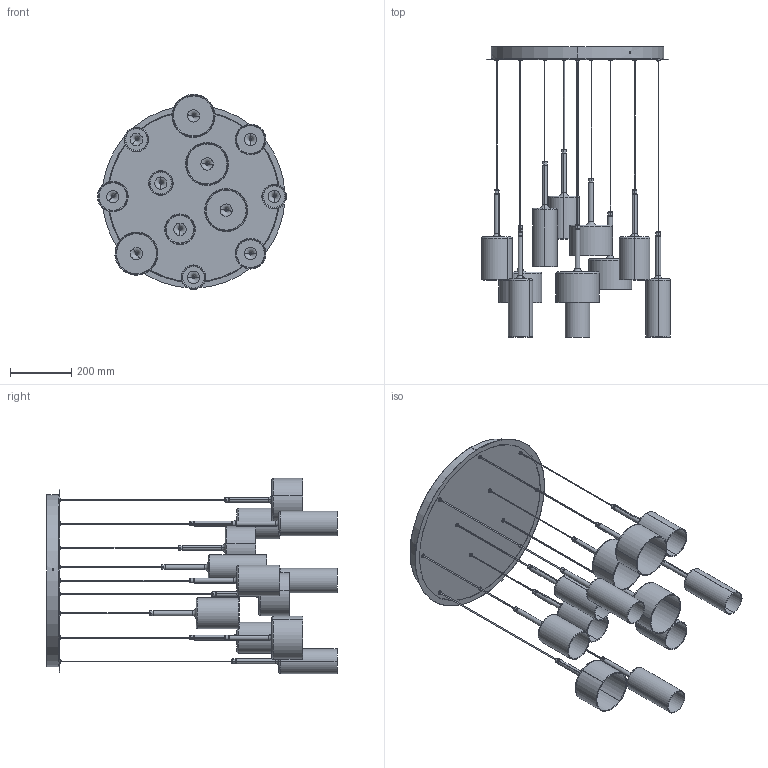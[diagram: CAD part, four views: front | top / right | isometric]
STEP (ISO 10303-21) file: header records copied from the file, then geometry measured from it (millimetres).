
FILE_DESCRIPTION (( 'STEP AP203' ), '1' );
FILE_NAME ('SPSPIX12TXXXXXX-PER 3D.STEP', '2025-06-26T07:09:39', ( '' ), ( '' ), 'SwSTEP 2.0', 'SolidWorks 2024', '' );
FILE_SCHEMA (( 'CONFIG_CONTROL_DESIGN' ));
Length unit declared in the file: millimetre
Products named in the file (29): VSPILLRAYPCS; CAVO NL2CN_CAVO NL2CN; PENDENTE SPILLRAY EVO M-00; SPSPIX12TXXXXXX-PER 3D; WSASS-000000057-00; WSCM2F0027-0100-01; PENDENTE SPILLRAY EVO G-00; WSM2G1522-FR------; VSPILLRAYMCS; PENDENTE SPILLRAY EVO P-00; WSCM2C0181-0100-00; WSCM2A0119-0700-00; VSPILLRAYGCS
Assembly tree (57 placements, depth 3):
  SPSPIX12TXXXXXX-PER 3D
    WSASS-000000057-00
      WSCM2F0027-0100-01
      WSCM2C0181-0100-00
      WSM2G1522-FR------  x12
    PENDENTE SPILLRAY EVO P-00  x3
      WSCM2A0119-0700-00
      CAVO NL2CN_CAVO NL2CN
      VSPILLRAYPCS
    PENDENTE SPILLRAY EVO M-00
      WSCM2A0119-0700-00
      CAVO NL2CN_CAVO NL2CN
      VSPILLRAYMCS
    PENDENTE SPILLRAY EVO G-00
      WSCM2A0119-0700-00
      CAVO NL2CN_CAVO NL2CN
      VSPILLRAYGCS
    PENDENTE SPILLRAY EVO M-00
      WSCM2A0119-0700-00
      CAVO NL2CN_CAVO NL2CN
      VSPILLRAYMCS
    PENDENTE SPILLRAY EVO M-00
      WSCM2A0119-0700-00
      CAVO NL2CN_CAVO NL2CN
      VSPILLRAYMCS
    PENDENTE SPILLRAY EVO G-00
      WSCM2A0119-0700-00
      CAVO NL2CN_CAVO NL2CN
      VSPILLRAYGCS
    PENDENTE SPILLRAY EVO G-00
      WSCM2A0119-0700-00
      CAVO NL2CN_CAVO NL2CN
      VSPILLRAYGCS
    PENDENTE SPILLRAY EVO M-00
      WSCM2A0119-0700-00
      CAVO NL2CN_CAVO NL2CN
      VSPILLRAYMCS
    PENDENTE SPILLRAY EVO P-00
      WSCM2A0119-0700-00
      CAVO NL2CN_CAVO NL2CN
      VSPILLRAYPCS
    PENDENTE SPILLRAY EVO G-00
      WSCM2A0119-0700-00
      CAVO NL2CN_CAVO NL2CN
      VSPILLRAYGCS
Bounding box: 614.81 x 945.63 x 634.99 mm (x, y, z)
Volume: 2702887.9 mm3; surface area: 2774836.4 mm2
Topology: 86 solids, 86 shells, 1545 faces, 3184 edges, 1888 vertices
Faces by surface type: cylinder 628, torus 332, plane 321, cone 240, bspline 24
Entity records: 22849 total; most frequent: DIRECTION 3740, CARTESIAN_POINT 3659, ORIENTED_EDGE 2800, AXIS2_PLACEMENT_3D 1621, EDGE_CURVE 1400, CIRCLE 870, VERTEX_POINT 848, EDGE_LOOP 784
